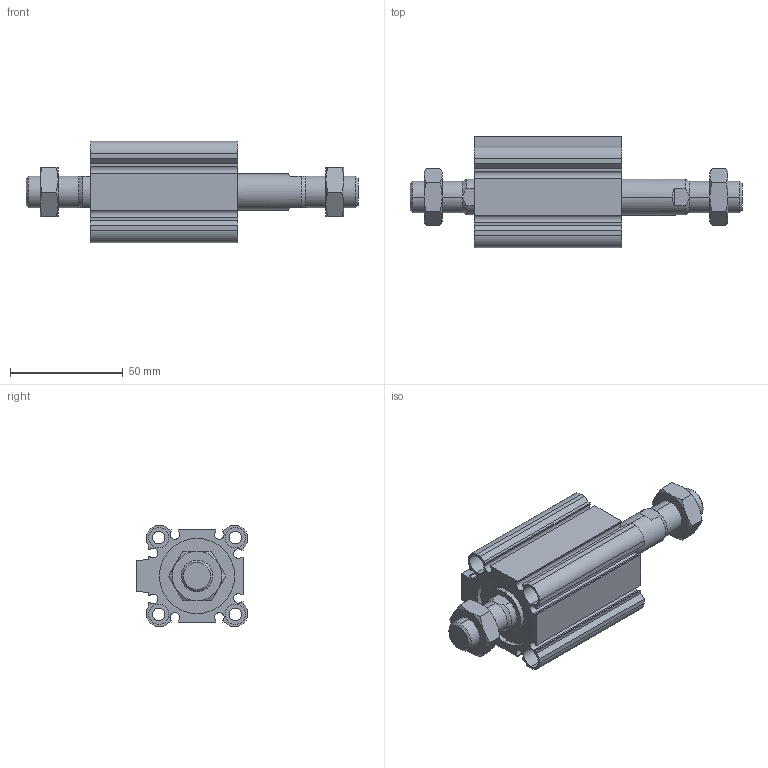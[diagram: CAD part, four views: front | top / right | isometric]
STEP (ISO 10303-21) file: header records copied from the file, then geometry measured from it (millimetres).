
FILE_DESCRIPTION (( 'STEP AP203' ), '1' );
FILE_NAME ('CCMB32-25M-P.STEP', '2020-08-10T11:33:43', ( '' ), ( '' ), 'SwSTEP 2.0', 'SolidWorks 2019', '' );
FILE_SCHEMA (( 'CONFIG_CONTROL_DESIGN' ));
Length unit declared in the file: millimetre
Products named in the file (1): CCMB32-25M-P
Bounding box: 147.5 x 49.5 x 45 mm (x, y, z)
Volume: 107990.5 mm3; surface area: 44958 mm2
Topology: 4 solids, 4 shells, 216 faces, 522 edges, 332 vertices
Faces by surface type: plane 94, cylinder 78, cone 44
Entity records: 7009 total; most frequent: CARTESIAN_POINT 1819, DIRECTION 1088, ORIENTED_EDGE 1044, EDGE_CURVE 522, AXIS2_PLACEMENT_3D 413, VERTEX_POINT 332, LINE 262, VECTOR 262
